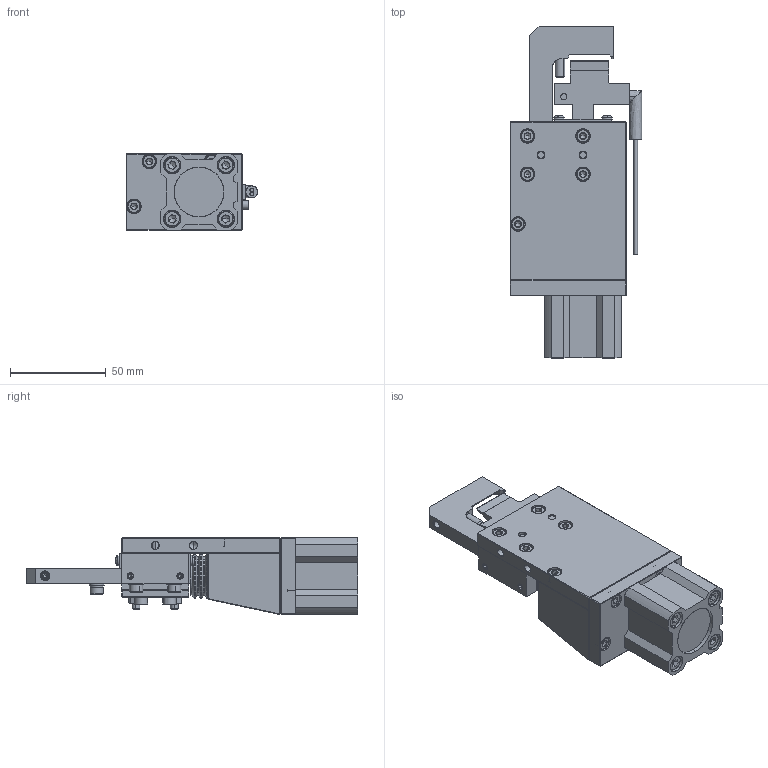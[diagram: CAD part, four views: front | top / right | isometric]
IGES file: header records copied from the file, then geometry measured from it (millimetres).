
Start section: SolidWorks IGES file using analytic representation for surfaces
Global section: file name: \\Server1\漂蔬皭}柺\怴3D\NKH\NKH20XL-25\NKH20XL-25.IGS; native system: SolidWorks 2010; preprocessor: SolidWorks 2010; author: NP3-10; date: 200123.153300; units: millimetre
Bounding box: 68.67 x 173.5 x 40 mm (x, y, z)
Surface area: 91111.2 mm2 (no closed solid volume)
Topology: 0 solids, 0 shells, 1964 faces, 22901 edges, 22823 vertices
Faces by surface type: bspline 1081, revolution 883
